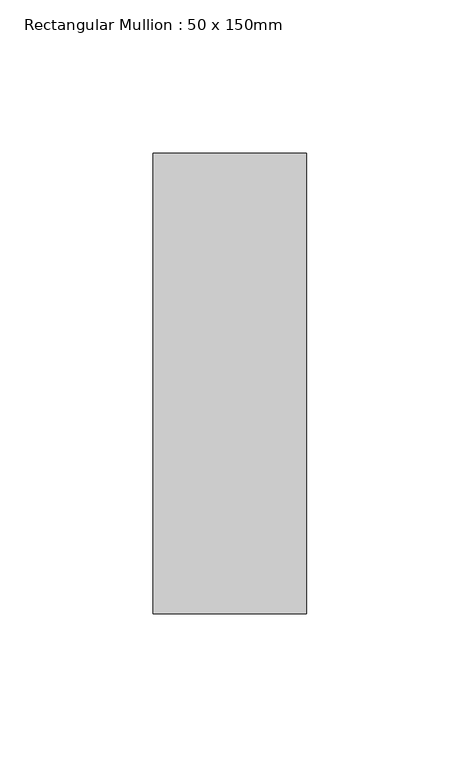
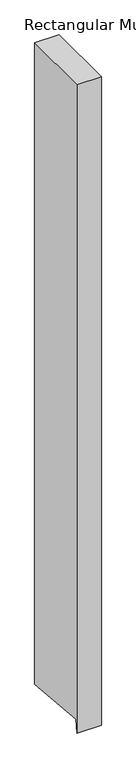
"""IFC4 building model written with IfcOpenShell, lengths in millimetres: member geometry, Rectangular Mullion : 50 x 150mm."""

from ifc_helpers import new_model, si_unit, frame, origin, place, context, project, spatial, polyline, outline, extrude, source, transform, mapped, element, save


def rectangular_mullion_50_x_150mm_d0d4fa47(model_context):
    return source(origin(), model_context, "Body", "SweptSolid", [
        extrude(outline(polyline([(-75.0, 0.0), (75.0, 0.0), (75.0, -1390.1576086), (-72.3000691, -1376.1668332), (-75.0, -1404.5927069), (-75.0, 0.0)])), frame((-50.0, 0.0, 0.0), z_axis=(1.0, 0.0, 0.0), x_axis=(0.0, 1.0, 0.0)), (0.0, 0.0, 1.0), 50.0),
    ])


if __name__ == "__main__":
    model = new_model("IFC4")
    model_context = context("Model", 3, world=origin())
    ifc_project = project(units=[si_unit("LENGTHUNIT", "METRE", prefix="MILLI")], contexts=[model_context])
    site = spatial("IfcSite", under=ifc_project)
    building = spatial("IfcBuilding", under=site)
    placement = place(None, origin())
    rectangular_mullion_50_x_150mm_shape = rectangular_mullion_50_x_150mm_d0d4fa47(model_context)
    element("IfcMember", 1, ObjectType="Rectangular Mullion : 50 x 150mm", at=placement, inside=building, context=model_context, shape_type="MappedRepresentation", body=[
        mapped(rectangular_mullion_50_x_150mm_shape, transform((0.0, 0.0, 0.0), x_axis=(1.0, 0.0, 0.0), y_axis=(0.0, 1.0, 0.0), z_axis=(0.0, 0.0, 1.0))),
    ])
    save(model, "model.ifc")
